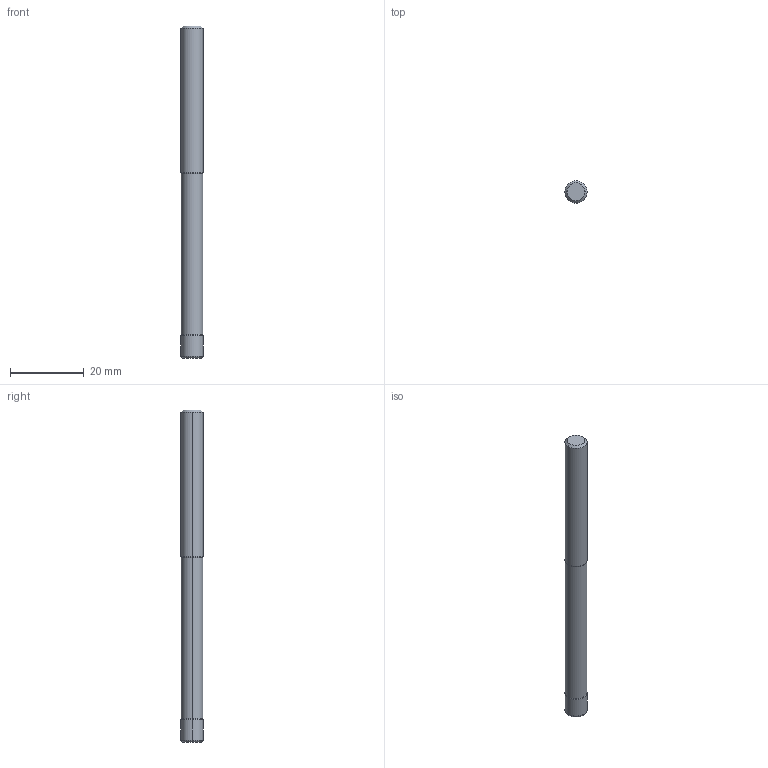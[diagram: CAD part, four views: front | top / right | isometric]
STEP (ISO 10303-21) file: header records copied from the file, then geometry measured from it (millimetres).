
FILE_DESCRIPTION (( 'STEP AP214' ), '1' );
FILE_NAME ('560.602.75_3D-model.step', '2022-02-18T16:00:21', ( '' ), ( '' ), 'SwSTEP 2.0', 'SolidWorks 2020', '' );
FILE_SCHEMA (( 'AUTOMOTIVE_DESIGN' ));
Length unit declared in the file: millimetre
Products named in the file (3): CUT-3D^Baugr68; NOCUT-3D^Baugr68; 560.602.75_3D-model
Assembly tree (2 placements, depth 2):
  560.602.75_3D-model
    CUT-3D^Baugr68
    NOCUT-3D^Baugr68
Bounding box: 6 x 6 x 90 mm (x, y, z)
Volume: 2499.5 mm3; surface area: 1784.7 mm2
Topology: 2 solids, 2 shells, 20 faces, 36 edges, 20 vertices
Faces by surface type: cylinder 6, cone 6, torus 4, plane 4
Entity records: 610 total; most frequent: DIRECTION 116, CARTESIAN_POINT 84, ORIENTED_EDGE 72, AXIS2_PLACEMENT_3D 52, EDGE_CURVE 36, CIRCLE 24, FACE_OUTER_BOUND 20, EDGE_LOOP 20
